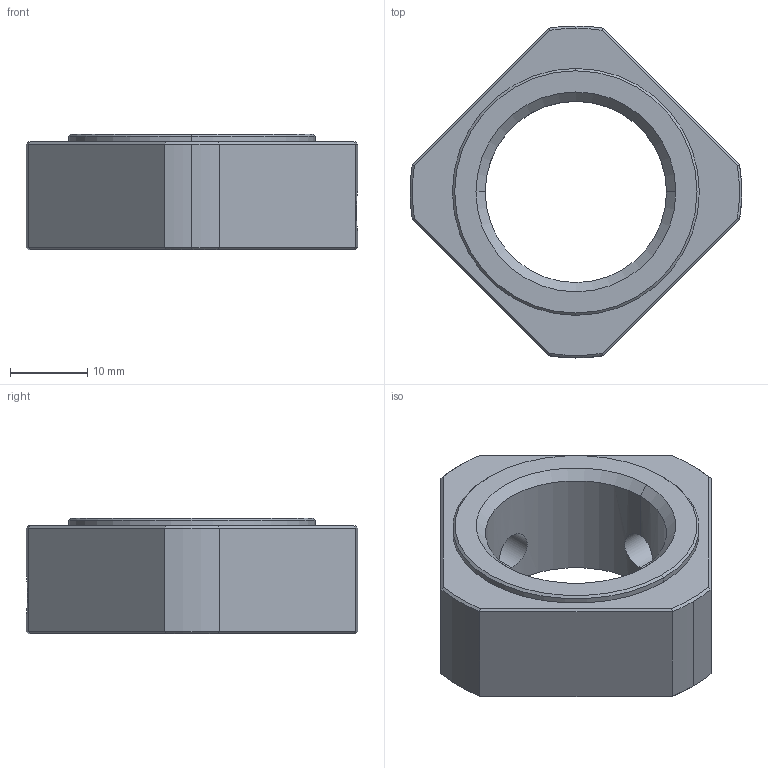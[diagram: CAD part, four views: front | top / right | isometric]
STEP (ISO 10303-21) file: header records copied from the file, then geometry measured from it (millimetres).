
FILE_DESCRIPTION (( 'STEP AP203' ), '1' );
FILE_NAME ('25玛㏕脸碪(家舱篈).STEP', '2013-01-22T02:29:29', ( '' ), ( '' ), 'SwSTEP 2.0', 'SolidWorks 2012', '' );
FILE_SCHEMA (( 'CONFIG_CONTROL_DESIGN' ));
Length unit declared in the file: millimetre
Products named in the file (1): 25鎖固螺帽(模型組態)
Bounding box: 42.97 x 43 x 15 mm (x, y, z)
Volume: 10351.6 mm3; surface area: 4612.7 mm2
Topology: 1 solids, 1 shells, 46 faces, 105 edges, 61 vertices
Faces by surface type: plane 15, cone 14, cylinder 13, bspline 4
Entity records: 1735 total; most frequent: CARTESIAN_POINT 669, ORIENTED_EDGE 210, DIRECTION 192, EDGE_CURVE 105, AXIS2_PLACEMENT_3D 76, VERTEX_POINT 61, EDGE_LOOP 52, FACE_OUTER_BOUND 46
